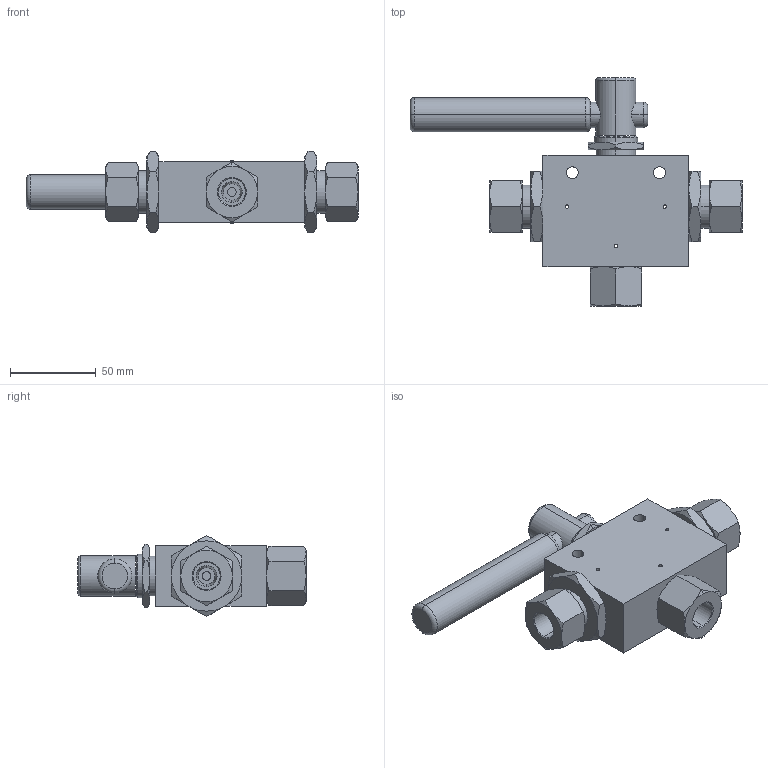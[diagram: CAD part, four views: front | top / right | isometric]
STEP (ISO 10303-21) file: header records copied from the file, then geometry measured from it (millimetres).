
FILE_DESCRIPTION (( 'STEP AP203' ), '1' );
FILE_NAME ('BV1505S06-3-180.STEP', '2022-04-07T10:00:55', ( '' ), ( '' ), 'SwSTEP 2.0', 'SolidWorks 2020', '' );
FILE_SCHEMA (( 'CONFIG_CONTROL_DESIGN' ));
Length unit declared in the file: millimetre
Products named in the file (1): BV1505S06-3-180
Bounding box: 193.5 x 133 x 47.34 mm (x, y, z)
Volume: 308843 mm3; surface area: 49325.9 mm2
Topology: 1 solids, 1 shells, 219 faces, 480 edges, 284 vertices
Faces by surface type: cone 90, plane 71, cylinder 50, torus 8
Entity records: 6891 total; most frequent: CARTESIAN_POINT 2140, DIRECTION 972, ORIENTED_EDGE 960, EDGE_CURVE 480, AXIS2_PLACEMENT_3D 424, VERTEX_POINT 284, EDGE_LOOP 254, ADVANCED_FACE 219
